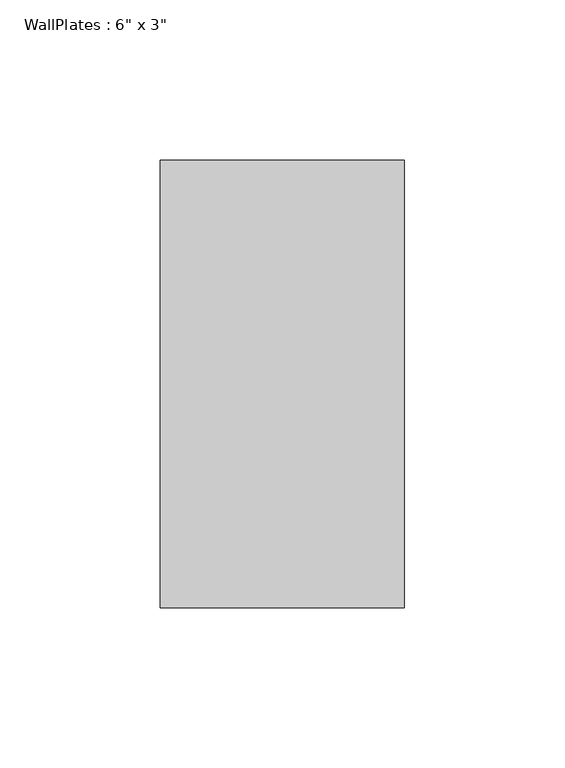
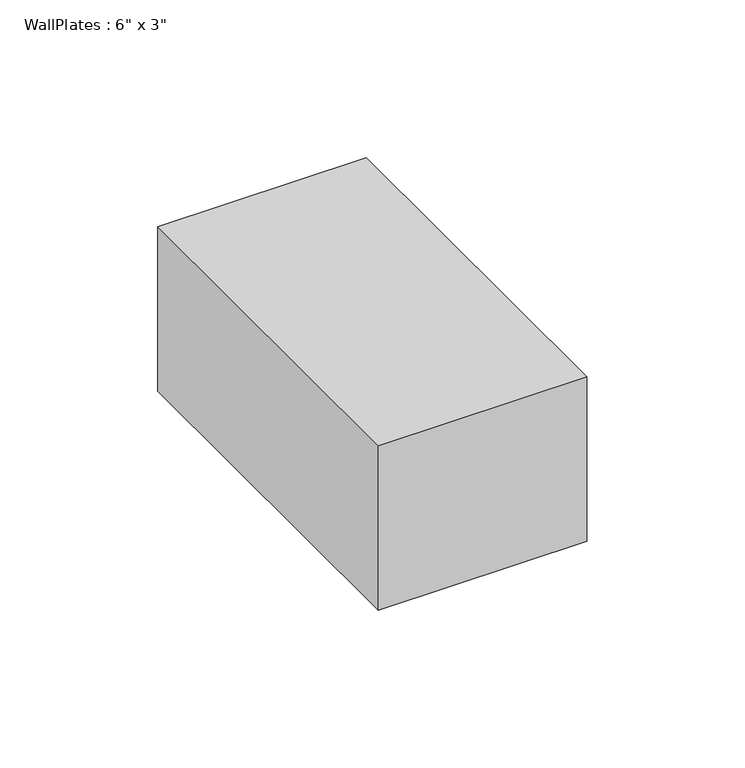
"""IFC4 building model written with IfcOpenShell, lengths in millimetres: beam geometry."""

from ifc_helpers import new_model, si_unit, frame, origin, place, context, project, spatial, polyline, outline, extrude, source, transform, mapped, element, save


def beam_c2d99e7f(model_context):
    return source(origin(), model_context, "Body", "SweptSolid", [
        extrude(outline(polyline([(-38.105, -69.85), (-38.105, 69.85), (38.105, 69.85), (38.105, -69.85), (-38.105, -69.85)])), frame((0.0, 0.0, -31.75), z_axis=(0.0, 0.0, 1.0), x_axis=(1.0, 0.0, 0.0)), (0.0, 0.0, 1.0), 63.5),
    ])


if __name__ == "__main__":
    model = new_model("IFC4")
    model_context = context("Model", 3, world=origin())
    ifc_project = project(units=[si_unit("LENGTHUNIT", "METRE", prefix="MILLI")], contexts=[model_context])
    site = spatial("IfcSite", under=ifc_project)
    building = spatial("IfcBuilding", under=site)
    placement = place(None, origin())
    beam_shape = beam_c2d99e7f(model_context)
    element("IfcBeam", 1, ObjectType="WallPlates : 6\" x 3\"", at=placement, inside=building, context=model_context, shape_type="MappedRepresentation", body=[
        mapped(beam_shape, transform((0.0, 0.0, 0.0), x_axis=(1.0, 0.0, 0.0), y_axis=(0.0, 1.0, 0.0), z_axis=(0.0, 0.0, 1.0))),
    ])
    save(model, "model.ifc")
